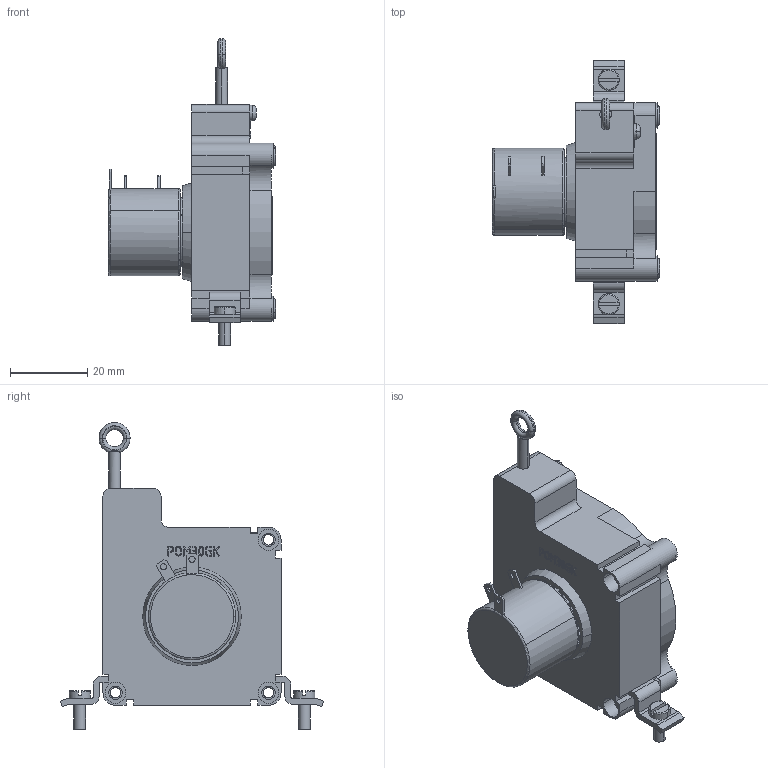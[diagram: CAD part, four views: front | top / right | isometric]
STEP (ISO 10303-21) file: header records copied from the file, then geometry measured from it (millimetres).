
FILE_DESCRIPTION((''),'2;1');
FILE_NAME('','2007-03-15T',(''),(''),'PRO/ENGINEER BY PARAMETRIC TECHNOLOGY CORPORATION, 2003250','PRO/ENGINEER BY PARAMETRIC TECHNOLOGY CORPORATION, 2003250','');
FILE_SCHEMA(('CONFIG_CONTROL_DESIGN'));
Length unit declared in the file: millimetre
Bounding box: 43.15 x 68 x 79.2 mm (x, y, z)
Volume: 26229.9 mm3; surface area: 21281.4 mm2
Topology: 1 solids, 11 shells, 808 faces, 2260 edges, 1509 vertices
Faces by surface type: plane 383, cylinder 233, extrusion 154, torus 30, cone 6, bspline 2
Entity records: 27974 total; most frequent: CARTESIAN_POINT 7038, ORIENTED_EDGE 4520, DIRECTION 4060, EDGE_CURVE 2260, VERTEX_POINT 1509, VECTOR 1362, AXIS2_PLACEMENT_3D 1349, LINE 1208
